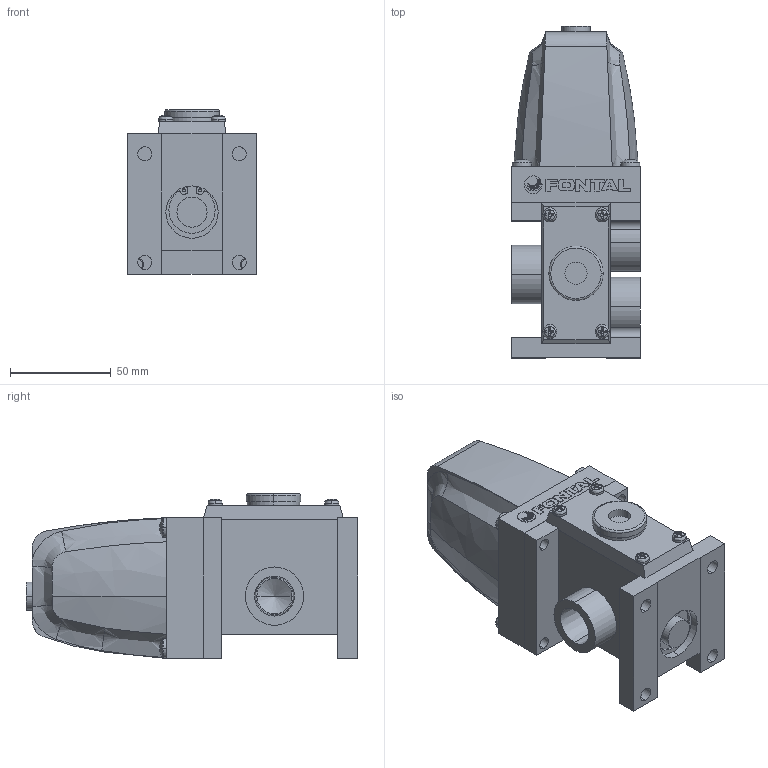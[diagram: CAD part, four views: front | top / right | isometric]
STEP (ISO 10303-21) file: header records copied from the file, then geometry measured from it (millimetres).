
FILE_DESCRIPTION (( 'STEP AP203' ), '1' );
FILE_NAME ('AS2310-04-##.STEP', '2016-03-09T03:44:13', ( 'Sam Lin' ), ( '' ), 'SwSTEP 2.0', 'SolidWorks 2013', '' );
FILE_SCHEMA (( 'CONFIG_CONTROL_DESIGN' ));
Length unit declared in the file: metre
Products named in the file (10): PMS2308-5; PMS2308-6; AS2310-2; AS2310-04-##; AS2310-3; AS2310-4; ISO 7045 - M4 x 8; ISO 7045 - M5 x 16; A10-MARK; AS2310-1=04
Assembly tree (15 placements, depth 2):
  AS2310-04-##
    AS2310-2
    AS2310-3
    AS2310-4
    ISO 7045 - M4 x 8  x4
    ISO 7045 - M5 x 16  x4
    A10-MARK
    AS2310-1=04
    PMS2308-5
    PMS2308-6
Bounding box: 64 x 165 x 82 mm (x, y, z)
Volume: 491141.6 mm3; surface area: 77596.1 mm2
Topology: 21 solids, 21 shells, 549 faces, 1395 edges, 887 vertices
Faces by surface type: plane 275, cylinder 140, bspline 74, cone 60
Entity records: 13503 total; most frequent: CARTESIAN_POINT 4042, ORIENTED_EDGE 1738, DIRECTION 1673, EDGE_CURVE 869, AXIS2_PLACEMENT_3D 609, VERTEX_POINT 569, LINE 455, VECTOR 455
